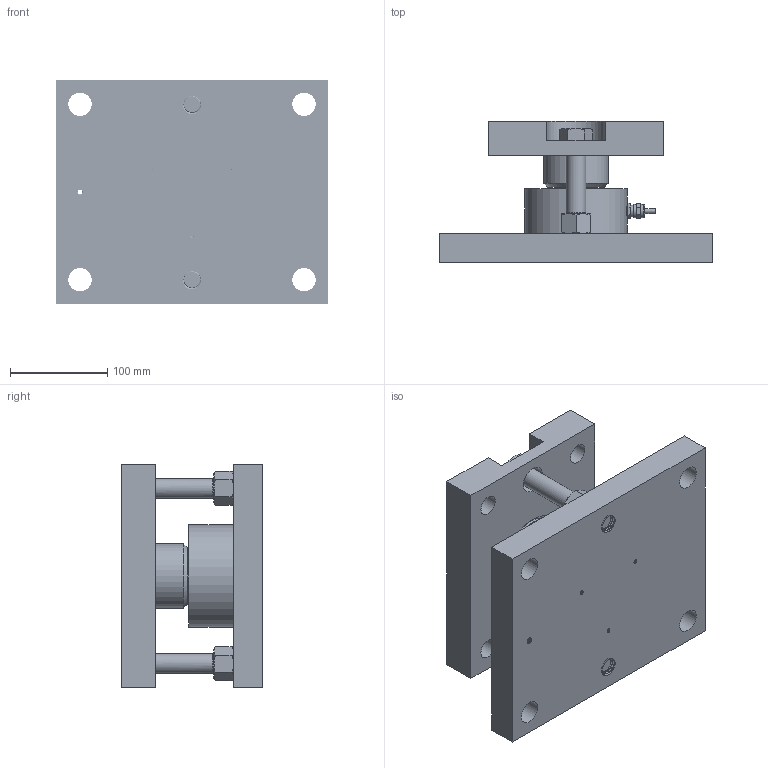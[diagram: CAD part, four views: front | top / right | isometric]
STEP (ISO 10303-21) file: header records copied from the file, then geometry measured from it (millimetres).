
FILE_DESCRIPTION(/* description */ (''),/* implementation_level */ '2;1');
FILE_NAME(/* name */ 'C:/Users/fardi/Dropbox/Work/Anyload/Load Cell Models/Product Catalog 3D/Weight Modules/276/276EHM1/276EHM1-50t v4.step',/* time_stamp */ '2020-05-01T12:17:34-07:00',/* author */ (''),/* organization */ (''),/* preprocessor_version */ 'ST-DEVELOPER v18.1',/* originating_system */ 'Autodesk Translation Framework v9.2.0.1227',/* authorisation */ '');
FILE_SCHEMA (('AUTOMOTIVE_DESIGN { 1 0 10303 214 3 1 1 }'));
Products named in the file (7): 276EHM1-50t; Base; 276EH-50t; Top; Adapter; 90725A740; 91310A964
Assembly tree (8 placements, depth 2):
  276EHM1-50t
    Base
    276EH-50t
    Top
    Adapter
    90725A740  x2
    91310A964  x2
Bounding box: 280 x 145.1 x 230 mm (x, y, z)
Volume: 3733533.8 mm3; surface area: 382116.3 mm2
Topology: 8 solids, 8 shells, 843 faces, 2220 edges, 1423 vertices
Faces by surface type: cylinder 602, plane 116, bspline 71, cone 53, torus 1
Full cylindrical faces by diameter (mm): 3.332 x159, 4.109 x102, 4.11 x51, 5.035 x37, 5.1 x1, 6.147 x35, 6.5 x3, 11 x3, 12 x1, 13.5 x2, 13.6 x1, 16.752 x46, 17.519 x30, 18 x1, 20 x50, 20.293 x22, 21 x4, 24 x4, 28 x2, 30 x1, 40 x1, 66 x1, 72 x1, 76 x2, 80 x1, 105 x1
Entity records: 54350 total; most frequent: CARTESIAN_POINT 38854, ORIENTED_EDGE 3690, DIRECTION 2373, EDGE_CURVE 1845, VERTEX_POINT 1181, B_SPLINE_CURVE_WITH_KNOTS 898, AXIS2_PLACEMENT_3D 842, EDGE_LOOP 764
